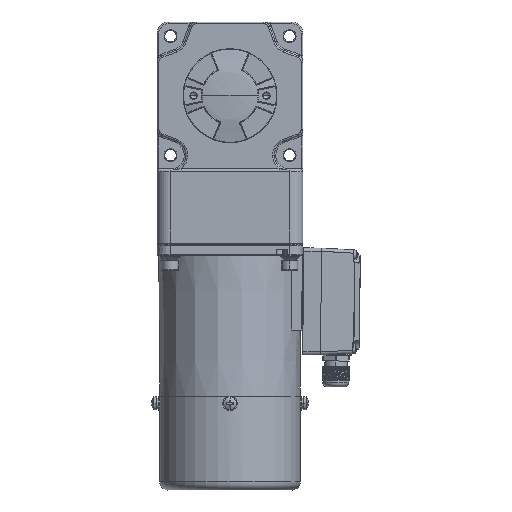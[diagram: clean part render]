
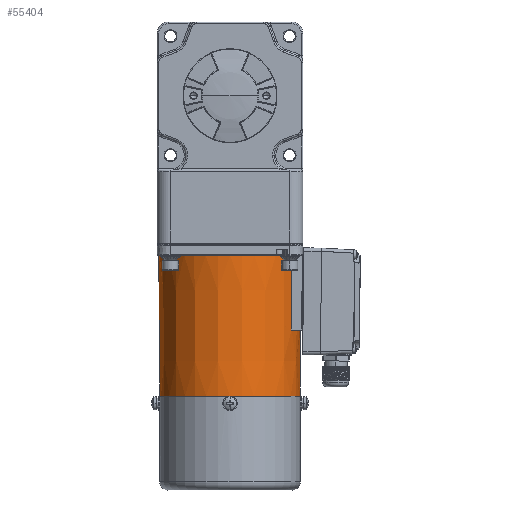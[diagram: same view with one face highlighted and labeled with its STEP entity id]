
A CAD part, front view. The second image highlights one B-rep face of the part: STEP entity #55404.
In plain terms, the highlighted conical face has half-angle 0.5 degrees and reference radius 43.62 mm.
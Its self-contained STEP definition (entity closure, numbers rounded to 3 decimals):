
#6888 = CARTESIAN_POINT ( 'NONE',  ( 26.369, -30.496, 169.5 ) ) ;
#8402 = DIRECTION ( 'NONE',  ( 0., 0., 1. ) ) ;
#12062 = DIRECTION ( 'NONE',  ( 0.009, 0., -1. ) ) ;
#14925 = CARTESIAN_POINT ( 'NONE',  ( 26.136, -30.093, 123.297 ) ) ;
#15563 = CARTESIAN_POINT ( 'NONE',  ( -11.736, -8.496, 123. ) ) ;
#15682 = B_SPLINE_CURVE_WITH_KNOTS ( 'NONE', 3,
 ( #40484, #75094, #109735, #31945, #66587, #101226, #23422, #58061, #92700, #14925 ),
 .UNSPECIFIED., .F., .F.,
 ( 4, 2, 2, 2, 4 ),
 ( 0., 0.5, 0.625, 0.75, 1. ),
 .UNSPECIFIED. ) ;
#18056 = ORIENTED_EDGE ( 'NONE', *, *, #75020, .F. ) ;
#20986 = DIRECTION ( 'NONE',  ( 0., 0., -1. ) ) ;
#23240 = CARTESIAN_POINT ( 'NONE',  ( 26.136, -30.093, 123.297 ) ) ;
#23422 = CARTESIAN_POINT ( 'NONE',  ( 26.151, -30.064, 123.171 ) ) ;
#23460 = EDGE_LOOP ( 'NONE', ( #97724, #80437, #70574, #66308, #32620, #95217, #18056 ) ) ;
#30664 = CARTESIAN_POINT ( 'NONE',  ( 31.858, -8.496, 123. ) ) ;
#31654 = CONICAL_SURFACE ( 'NONE', #95061, 43.62, 0.009 ) ;
#31761 = CARTESIAN_POINT ( 'NONE',  ( 26.291, -30.361, 154.052 ) ) ;
#31945 = CARTESIAN_POINT ( 'NONE',  ( 26.174, -30.022, 123.106 ) ) ;
#32213 = AXIS2_PLACEMENT_3D ( 'NONE', #34599, #69238, #103889 ) ;
#32620 = ORIENTED_EDGE ( 'NONE', *, *, #104393, .T. ) ;
#34599 = CARTESIAN_POINT ( 'NONE',  ( -11.736, -8.496, 169.5 ) ) ;
#35097 = AXIS2_PLACEMENT_3D ( 'NONE', #98779, #20986, #55628 ) ;
#40484 = CARTESIAN_POINT ( 'NONE',  ( 26.302, -29.793, 123. ) ) ;
#40753 = VERTEX_POINT ( 'NONE', #111699 ) ;
#42340 = VECTOR ( 'NONE', #65282, 1000. ) ;
#43019 = DIRECTION ( 'NONE',  ( -1., 0., 0. ) ) ;
#46819 = CARTESIAN_POINT ( 'NONE',  ( 31.505, -8.496, 82.5 ) ) ;
#47653 = CARTESIAN_POINT ( 'NONE',  ( -55.736, -8.496, 169.5 ) ) ;
#50204 = DIRECTION ( 'NONE',  ( 0., 0., -1. ) ) ;
#51551 = FACE_OUTER_BOUND ( 'NONE', #23460, .T. ) ;
#53941 = VERTEX_POINT ( 'NONE', #6888 ) ;
#55232 = VERTEX_POINT ( 'NONE', #47653 ) ;
#55404 = ADVANCED_FACE ( 'NONE', ( #51551 ), #31654, .T. ) ;
#55606 = VECTOR ( 'NONE', #12062, 1000. ) ;
#55628 = DIRECTION ( 'NONE',  ( 1., 0., 0. ) ) ;
#58061 = CARTESIAN_POINT ( 'NONE',  ( 26.139, -30.085, 123.223 ) ) ;
#60191 = CARTESIAN_POINT ( 'NONE',  ( 31.858, -8.496, 123. ) ) ;
#61870 = CIRCLE ( 'NONE', #76395, 43.594 ) ;
#63711 = LINE ( 'NONE', #89820, #55606 ) ;
#64660 = VERTEX_POINT ( 'NONE', #46819 ) ;
#64972 = EDGE_CURVE ( 'NONE', #55232, #40753, #63711, .T. ) ;
#65282 = DIRECTION ( 'NONE',  ( -0.009, 0., -1. ) ) ;
#66308 = ORIENTED_EDGE ( 'NONE', *, *, #111513, .F. ) ;
#66398 = CARTESIAN_POINT ( 'NONE',  ( 26.213, -30.227, 138.652 ) ) ;
#66587 = CARTESIAN_POINT ( 'NONE',  ( 26.167, -30.034, 123.121 ) ) ;
#69238 = DIRECTION ( 'NONE',  ( 0., 0., -1. ) ) ;
#70574 = ORIENTED_EDGE ( 'NONE', *, *, #110354, .F. ) ;
#74686 = VERTEX_POINT ( 'NONE', #60191 ) ;
#74908 = CARTESIAN_POINT ( 'NONE',  ( 26.369, -30.496, 169.5 ) ) ;
#75020 = EDGE_CURVE ( 'NONE', #53941, #87163, #84768, .T. ) ;
#75094 = CARTESIAN_POINT ( 'NONE',  ( 26.256, -29.875, 123. ) ) ;
#76395 = AXIS2_PLACEMENT_3D ( 'NONE', #15563, #50204, #84805 ) ;
#79993 = VERTEX_POINT ( 'NONE', #112346 ) ;
#80437 = ORIENTED_EDGE ( 'NONE', *, *, #64972, .T. ) ;
#81104 = CIRCLE ( 'NONE', #32213, 44. ) ;
#84098 = CIRCLE ( 'NONE', #35097, 43.241 ) ;
#84768 = B_SPLINE_CURVE_WITH_KNOTS ( 'NONE', 3,
 ( #74908, #109555, #31761, #66398, #101041, #23240 ),
 .UNSPECIFIED., .F., .F.,
 ( 4, 1, 1, 4 ),
 ( 0., 0.333, 0.667, 1. ),
 .UNSPECIFIED. ) ;
#84805 = DIRECTION ( 'NONE',  ( 1., 0., 0. ) ) ;
#86131 = CARTESIAN_POINT ( 'NONE',  ( -11.736, -8.496, 126. ) ) ;
#87163 = VERTEX_POINT ( 'NONE', #109127 ) ;
#89820 = CARTESIAN_POINT ( 'NONE',  ( -55.736, -8.496, 169.5 ) ) ;
#92700 = CARTESIAN_POINT ( 'NONE',  ( 26.136, -30.092, 123.259 ) ) ;
#95061 = AXIS2_PLACEMENT_3D ( 'NONE', #86131, #8402, #43019 ) ;
#95217 = ORIENTED_EDGE ( 'NONE', *, *, #101306, .T. ) ;
#97724 = ORIENTED_EDGE ( 'NONE', *, *, #98991, .T. ) ;
#98779 = CARTESIAN_POINT ( 'NONE',  ( -11.736, -8.496, 82.5 ) ) ;
#98991 = EDGE_CURVE ( 'NONE', #53941, #55232, #81104, .T. ) ;
#101041 = CARTESIAN_POINT ( 'NONE',  ( 26.162, -30.137, 128.411 ) ) ;
#101226 = CARTESIAN_POINT ( 'NONE',  ( 26.156, -30.055, 123.153 ) ) ;
#101306 = EDGE_CURVE ( 'NONE', #79993, #87163, #15682, .T. ) ;
#103889 = DIRECTION ( 'NONE',  ( 0.866, -0.5, 0. ) ) ;
#104393 = EDGE_CURVE ( 'NONE', #74686, #79993, #61870, .T. ) ;
#108443 = LINE ( 'NONE', #30664, #42340 ) ;
#109127 = CARTESIAN_POINT ( 'NONE',  ( 26.136, -30.093, 123.297 ) ) ;
#109555 = CARTESIAN_POINT ( 'NONE',  ( 26.343, -30.451, 164.346 ) ) ;
#109735 = CARTESIAN_POINT ( 'NONE',  ( 26.212, -29.954, 123.035 ) ) ;
#110354 = EDGE_CURVE ( 'NONE', #64660, #40753, #84098, .T. ) ;
#111513 = EDGE_CURVE ( 'NONE', #74686, #64660, #108443, .T. ) ;
#111699 = CARTESIAN_POINT ( 'NONE',  ( -54.977, -8.496, 82.5 ) ) ;
#112346 = CARTESIAN_POINT ( 'NONE',  ( 26.302, -29.793, 123. ) ) ;
